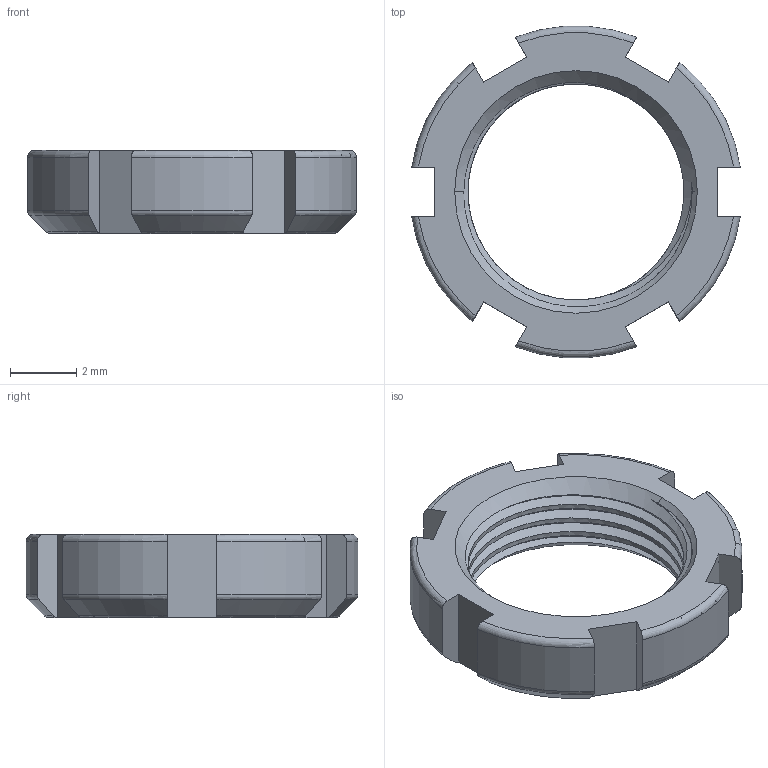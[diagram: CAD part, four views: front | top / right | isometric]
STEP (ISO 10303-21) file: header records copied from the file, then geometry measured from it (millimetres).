
FILE_DESCRIPTION((''),'2;1');
FILE_NAME('00021499_GEWINDEDARSTELLUNG','2020-10-29T14:42:10',('EUnterhaslberger'),(''),'CREO PARAMETRIC BY PTC INC, 2018300','CREO PARAMETRIC BY PTC INC, 2018300','');
FILE_SCHEMA(('AP242_MANAGED_MODEL_BASED_3D_ENGINEERING_MIM_LF { 1 0 10303 442 1 1 4 }'));
Length unit declared in the file: millimetre
Products named in the file (1): 00021499_GEWINDEDARSTELLUNG
Bounding box: 9.89 x 9.97 x 2.5 mm (x, y, z)
Volume: 85.4 mm3; surface area: 229.1 mm2
Topology: 1 solids, 1 shells, 67 faces, 193 edges, 128 vertices
Faces by surface type: plane 20, torus 18, cylinder 13, cone 10, bspline 6
Entity records: 4590 total; most frequent: CARTESIAN_POINT 2272, ORIENTED_EDGE 386, DIRECTION 287, PRESENTATION_STYLE_ASSIGNMENT 194, STYLED_ITEM 194, CURVE_STYLE 193, EDGE_CURVE 193, VERTEX_POINT 128
